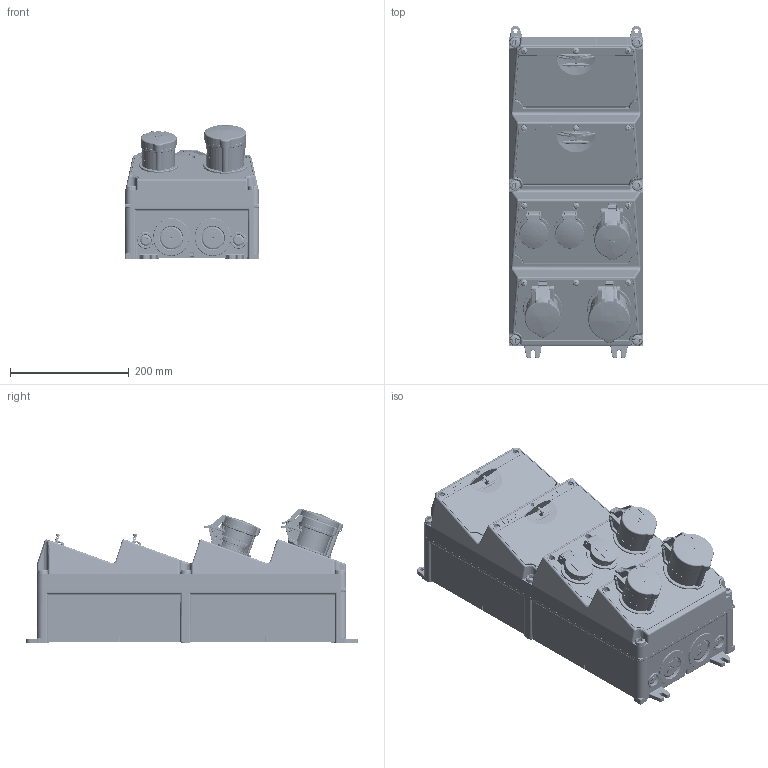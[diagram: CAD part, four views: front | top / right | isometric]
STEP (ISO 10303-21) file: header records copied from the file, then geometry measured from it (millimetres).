
FILE_DESCRIPTION((''),'2;1');
FILE_NAME('940026-1_ASM_1_ASM','2018-06-12T',('prakek'),('MENNEKES'),'PRO/ENGINEER BY PARAMETRIC TECHNOLOGY CORPORATION, 2015440','PRO/ENGINEER BY PARAMETRIC TECHNOLOGY CORPORATION, 2015440','');
FILE_SCHEMA(('AUTOMOTIVE_DESIGN { 1 0 10303 214 1 1 1 1 }'));
Products named in the file (15): 4-4_SW_O_GRAU_1; MANIFOLD_SOLID_BREP_261038; MANIFOLD_SOLID_BREP_349401; MANIFOLD_SOLID_BREP_349738; MANIFOLD_SOLID_BREP_352217; FI_4POL_4TE_1_ASM; LS_3POL_3TE_1; LS_1POL_1TE_1; MP_LEER_GRAU_1; MP_FEN10_44_OBEN_GRAU_1; BAUTEIL_DUMMY__1; AMAXX_CEE_32_3_44_ROT_1; AMAXX_CEE_16_4_44_ROT_1; AMAXX_SCHUKO_44_BLAU_1; 940026-1_ASM_1_ASM
Assembly tree (21 placements, depth 3):
  940026-1_ASM_1_ASM
    4-4_SW_O_GRAU_1
    FI_4POL_4TE_1_ASM
      MANIFOLD_SOLID_BREP_261038
      MANIFOLD_SOLID_BREP_349401
      MANIFOLD_SOLID_BREP_349738
      MANIFOLD_SOLID_BREP_352217
    LS_3POL_3TE_1  x3
    LS_1POL_1TE_1  x2
    MP_LEER_GRAU_1  x2
    MP_FEN10_44_OBEN_GRAU_1  x2
    BAUTEIL_DUMMY__1
    AMAXX_CEE_32_3_44_ROT_1
    AMAXX_CEE_16_4_44_ROT_1  x2
    AMAXX_SCHUKO_44_BLAU_1  x2
Bounding box: 225 x 558.2 x 226.81 mm (x, y, z)
Volume: 13822793.4 mm3; surface area: 1467268.4 mm2
Topology: 19 solids, 19 shells, 15869 faces, 44065 edges, 28273 vertices
Faces by surface type: plane 7866, cylinder 4378, bspline 1322, torus 1186, cone 467, extrusion 327, sphere 323
Entity records: 526535 total; most frequent: CARTESIAN_POINT 150921, ORIENTED_EDGE 61714, DIRECTION 54273, EDGE_CURVE 30857, VERTEX_POINT 19747, AXIS2_PLACEMENT_3D 18707, VECTOR 16859, LINE 16695
